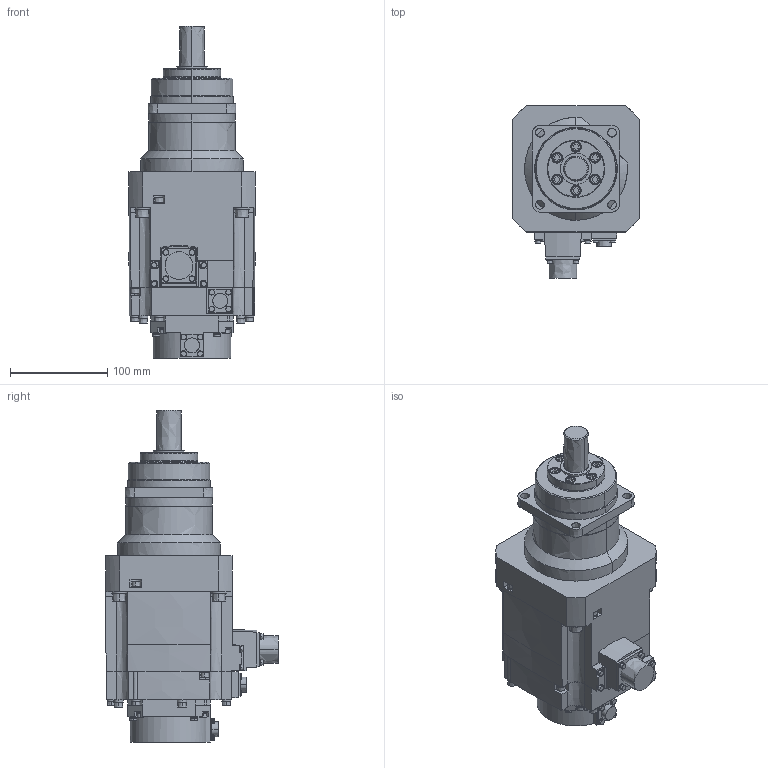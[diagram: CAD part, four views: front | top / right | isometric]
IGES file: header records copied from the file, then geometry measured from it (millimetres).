
Start section:  PTC IGES file: hg-sr102bg7_05_.igs
Global section: file name: hg-sr102bg7_05_.igs; native system: Creo Parametric by PTC Inc.; preprocessor: 2016380; author: ZS28065; organization: Unknown; date: 20180302.113542; units: millimetre
Bounding box: 130 x 177.49 x 342 mm (x, y, z)
Volume: 3269182.2 mm3; surface area: 173672.6 mm2
Topology: 1 solids, 1 shells, 646 faces, 1522 edges, 1000 vertices
Faces by surface type: bspline 646
